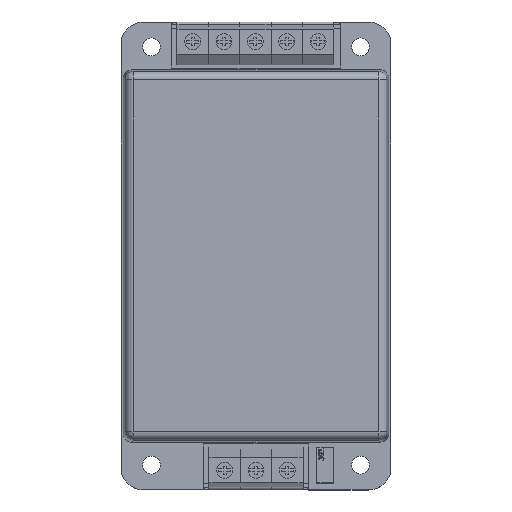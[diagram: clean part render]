
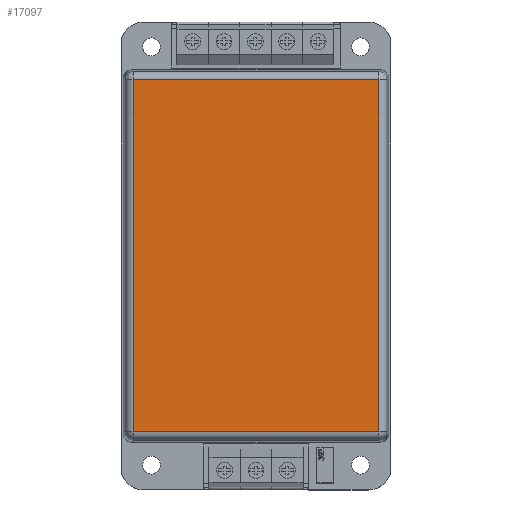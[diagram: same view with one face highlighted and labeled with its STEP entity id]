
A CAD part, top view. The second image highlights one B-rep face of the part: STEP entity #17097.
In plain terms, the highlighted planar face has unit normal (0, 0, 1).
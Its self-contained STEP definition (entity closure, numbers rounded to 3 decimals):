
#1504 = LINE ( 'NONE', #8582, #5518 ) ;
#1593 = DIRECTION ( 'NONE',  ( 0., 0., 1. ) ) ;
#1754 = CARTESIAN_POINT ( 'NONE',  ( -1.804, 0., 53.13 ) ) ;
#1937 = ORIENTED_EDGE ( 'NONE', *, *, #4421, .T. ) ;
#2257 = EDGE_LOOP ( 'NONE', ( #15529, #5669, #20083, #1937 ) ) ;
#2877 = DIRECTION ( 'NONE',  ( 0., -1., 0. ) ) ;
#3205 = CARTESIAN_POINT ( 'NONE',  ( 0., 0., 53.13 ) ) ;
#3372 = DIRECTION ( 'NONE',  ( 0., 1., 0. ) ) ;
#3874 = VERTEX_POINT ( 'NONE', #20307 ) ;
#4421 = EDGE_CURVE ( 'NONE', #16876, #9292, #1504, .T. ) ;
#5259 = EDGE_CURVE ( 'NONE', #9292, #3874, #16673, .T. ) ;
#5518 = VECTOR ( 'NONE', #13323, 1000. ) ;
#5669 = ORIENTED_EDGE ( 'NONE', *, *, #11143, .T. ) ;
#6299 = VECTOR ( 'NONE', #3372, 1000. ) ;
#7063 = LINE ( 'NONE', #1754, #6299 ) ;
#7473 = PLANE ( 'NONE',  #15055 ) ;
#7949 = DIRECTION ( 'NONE',  ( 1., 0., 0. ) ) ;
#8582 = CARTESIAN_POINT ( 'NONE',  ( 0., 25.454, 53.13 ) ) ;
#9292 = VERTEX_POINT ( 'NONE', #15575 ) ;
#10699 = CARTESIAN_POINT ( 'NONE',  ( 0., -58.672, 53.13 ) ) ;
#11143 = EDGE_CURVE ( 'NONE', #3874, #16047, #19966, .T. ) ;
#11943 = CARTESIAN_POINT ( 'NONE',  ( -1.804, 25.454, 53.13 ) ) ;
#13323 = DIRECTION ( 'NONE',  ( -1., 0., 0. ) ) ;
#14042 = CARTESIAN_POINT ( 'NONE',  ( -1.804, -58.672, 53.13 ) ) ;
#15055 = AXIS2_PLACEMENT_3D ( 'NONE', #3205, #1593, #7949 ) ;
#15493 = DIRECTION ( 'NONE',  ( 1., 0., 0. ) ) ;
#15529 = ORIENTED_EDGE ( 'NONE', *, *, #5259, .T. ) ;
#15575 = CARTESIAN_POINT ( 'NONE',  ( -60.43, 25.454, 53.13 ) ) ;
#16047 = VERTEX_POINT ( 'NONE', #14042 ) ;
#16673 = LINE ( 'NONE', #18515, #17931 ) ;
#16683 = EDGE_CURVE ( 'NONE', #16047, #16876, #7063, .T. ) ;
#16876 = VERTEX_POINT ( 'NONE', #11943 ) ;
#17097 = ADVANCED_FACE ( 'NONE', ( #17467 ), #7473, .T. ) ;
#17467 = FACE_OUTER_BOUND ( 'NONE', #2257, .T. ) ;
#17931 = VECTOR ( 'NONE', #2877, 1000. ) ;
#18515 = CARTESIAN_POINT ( 'NONE',  ( -60.43, 0., 53.13 ) ) ;
#19475 = VECTOR ( 'NONE', #15493, 1000. ) ;
#19966 = LINE ( 'NONE', #10699, #19475 ) ;
#20083 = ORIENTED_EDGE ( 'NONE', *, *, #16683, .T. ) ;
#20307 = CARTESIAN_POINT ( 'NONE',  ( -60.43, -58.672, 53.13 ) ) ;
